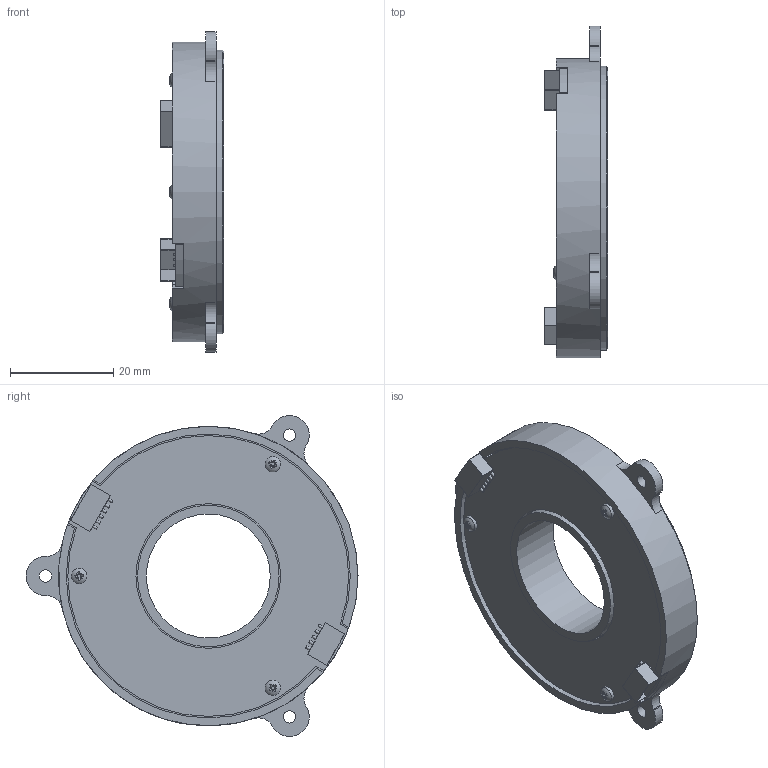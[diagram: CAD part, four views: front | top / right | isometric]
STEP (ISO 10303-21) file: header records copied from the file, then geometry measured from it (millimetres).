
FILE_DESCRIPTION(('STEP AP214'), '1');
FILE_NAME('蟲鰍-60', '2025-02-21T21:44:38', (''), (''), 'C3D Converter', 'C3D Toolkit', '');
FILE_SCHEMA(('AUTOMOTIVE_DESIGN { 1 0 10303 214 3 1 1}'));
Length unit declared in the file: millimetre
Products named in the file (12): ВОДП-60; Корпус; Плата; Сенсор; Разъем1; Разъем2; PCB
Assembly tree (13 placements, depth 3):
  ВОДП-60
    Корпус
    (unnamed)
    Плата
      Сенсор
      Разъем1
      Разъем2
      PCB
    (unnamed)
    (unnamed)
    (unnamed)
    (unnamed)  x3
Bounding box: 12.3 x 64.3 x 62.16 mm (x, y, z)
Volume: 14467.3 mm3; surface area: 19653 mm2
Topology: 12 solids, 12 shells, 1419 faces, 4044 edges, 2687 vertices
Faces by surface type: plane 777, cylinder 606, bspline 32, sphere 3, cone 1
Full cylindrical faces by diameter (mm): 0.5 x12, 1 x2, 1.3 x3, 1.36 x3, 1.6 x3, 1.8 x3, 2.4 x3, 3 x3, 24 x1, 27.4 x2, 27.5 x1, 28 x5, 29 x1, 30 x1, 32 x1, 32.6 x1, 40 x1, 42 x1, 43 x1, 46.6 x1, 47 x1, 55 x1, 58 x1
Entity records: 55856 total; most frequent: CARTESIAN_POINT 8168, ORIENTED_EDGE 7496, DIRECTION 7453, EDGE_CURVE 3748, AXIS2_PLACEMENT_3D 2544, VERTEX_POINT 2527, LINE 2365, VECTOR 2365
